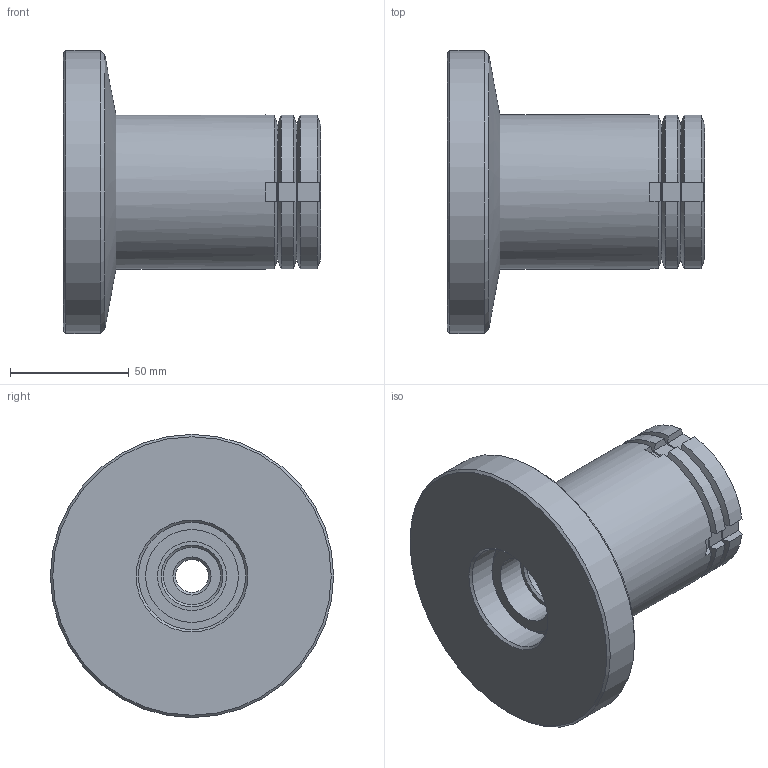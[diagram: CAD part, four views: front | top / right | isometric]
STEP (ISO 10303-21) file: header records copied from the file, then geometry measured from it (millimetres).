
FILE_DESCRIPTION( ( 'STEP AP203' ), '1' );
FILE_NAME( 'C:/Temp/Ganter_Step_05_03_2020/data/3_2/gn360/gn360_ni/Stainless Steel-Levelling set GN 360-119-M16-148-B-NI (0-0).stp', '2020-03-13T05:42:14', ( 'License CC BY-ND 4.0' ), ( 'CADENAS' ), ' ', 'PARTsolutions', ' ' );
FILE_SCHEMA( ( 'CONFIG_CONTROL_DESIGN' ) );
Length unit declared in the file: millimetre
Products named in the file (5): Stainless Steel-Levelling set GN 360-119-M16-148-B-NI (0-0); _Stainless Steel-Levelling set GN 360-119-M16-148-B-NI (0-0)-1; _Stainless Steel-Levelling set GN 360-119-M16-148-B-NI (0-0)-2; _Edelstahl-Ausgleich-Stellfuss GN 360-119-M16-148-B-NI (0-0)-4; _Stainless Steel-Levelling set GN 360-119-M16-148-B-NI (0-0)-3
Assembly tree (4 placements, depth 2):
  Stainless Steel-Levelling set GN 360-119-M16-148-B-NI (0-0)
    _Stainless Steel-Levelling set GN 360-119-M16-148-B-NI (0-0)-1
    _Stainless Steel-Levelling set GN 360-119-M16-148-B-NI (0-0)-2
    _Edelstahl-Ausgleich-Stellfuss GN 360-119-M16-148-B-NI (0-0)-4
    _Stainless Steel-Levelling set GN 360-119-M16-148-B-NI (0-0)-3
Bounding box: 108 x 119 x 119 mm (x, y, z)
Volume: 444309.4 mm3; surface area: 89895.8 mm2
Topology: 4 solids, 4 shells, 96 faces, 232 edges, 149 vertices
Faces by surface type: plane 53, cylinder 22, cone 18, sphere 2, torus 1
Full cylindrical faces by diameter (mm): 13.835 x1, 24 x1, 29 x1, 32 x1, 38 x1, 39 x1, 43 x1, 43.376 x2, 45 x2, 45.5 x1, 65 x1, 119 x1
Entity records: 2944 total; most frequent: CARTESIAN_POINT 771, DIRECTION 400, ORIENTED_EDGE 378, EDGE_CURVE 189, AXIS2_PLACEMENT_3D 170, EDGE_LOOP 144, VERTEX_POINT 141, FACE_OUTER_BOUND 113
